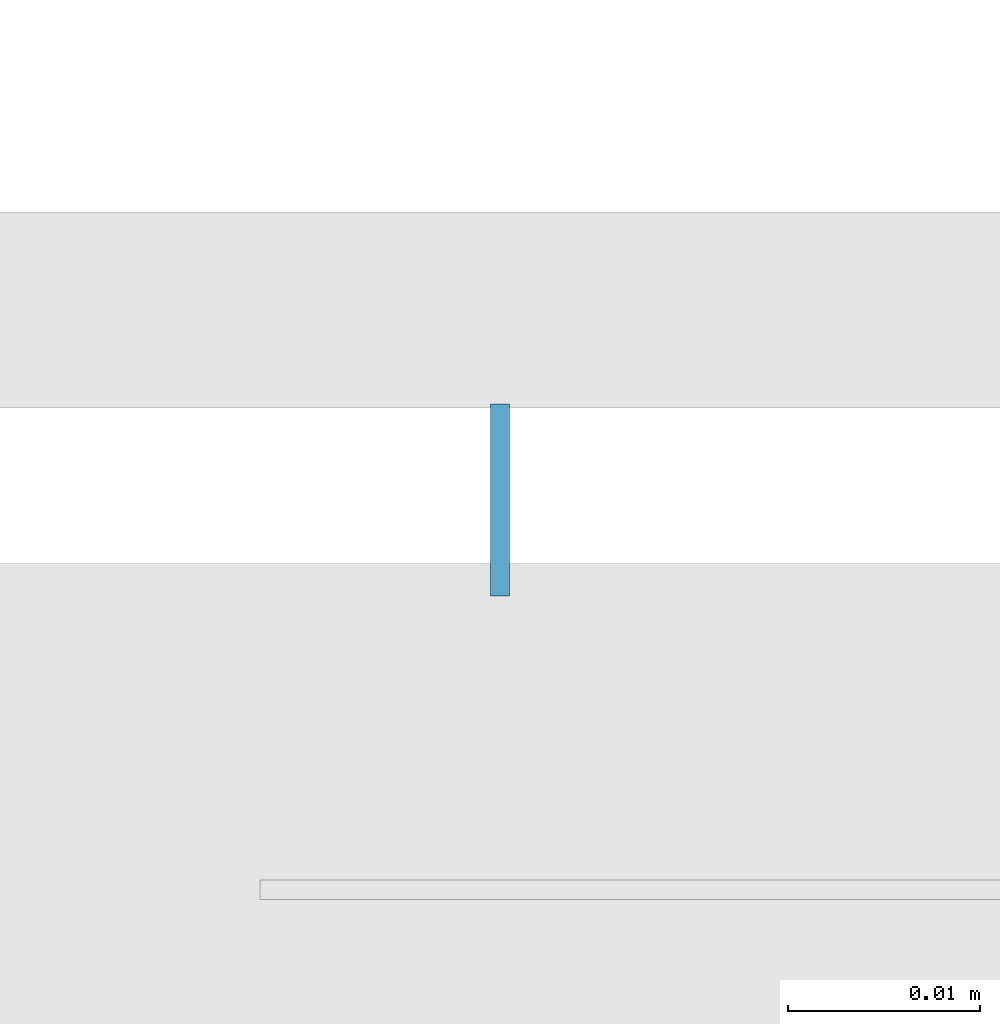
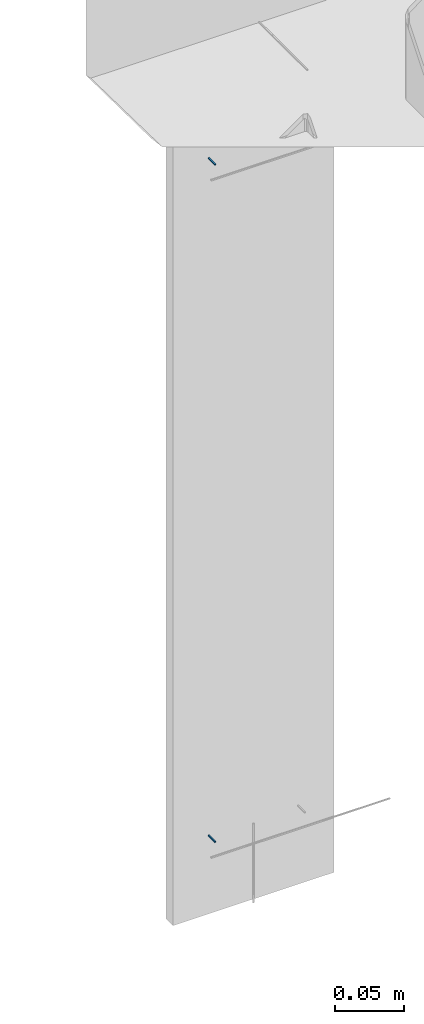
# One storey, part 96 of 186: 2 beams.
"""IFC4X3_ADD2 building model written with IfcOpenShell, lengths in millimetres."""

from ifc_helpers import new_model, si_unit, direction, frame, frame_2d, origin_with_axes, place, context, subcontext, project, spatial, rectangle, extrude, material, element, save


model = new_model("IFC4X3_ADD2")

# Units and contexts
model_context = context("Model", 3, precision=1e-05, world=origin_with_axes(), true_north=direction((0.0, 1.0)))
body_context = subcontext(model_context, "Body", "Model", "MODEL_VIEW")
ifc_project = project(units=[si_unit("LENGTHUNIT", "METRE", prefix="MILLI"), si_unit("AREAUNIT", "SQUARE_METRE"), si_unit("VOLUMEUNIT", "CUBIC_METRE"), si_unit("PLANEANGLEUNIT", "RADIAN"), si_unit("TIMEUNIT", "SECOND"), si_unit("MASSUNIT", "GRAM")], contexts=[model_context])

# Site, building, storey
site_placement = place(None, origin_with_axes())
site = spatial("IfcSite", under=ifc_project, at=site_placement, Name="Site", CompositionType="ELEMENT")
building_placement = place(site_placement, origin_with_axes())
building = spatial("IfcBuilding", under=site, at=building_placement, Name="IFC Building Story")
storey_placement = place(building_placement, frame((0.0, 0.0, 4370.0), z_axis=(0.0, 0.0, 1.0), x_axis=(1.0, 0.0, 0.0)))
storey = spatial("IfcBuildingStorey", under=building, at=storey_placement, Name="ETAGE 10 (1)", Elevation=4370.0)

# Beams
ifc_material = material(Name="STEEL/Accessory_invisible")
for number, where, z_axis, x_axis, name in (
    (1, (10718.1886362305, 17983.2997253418, 3729.45), (1.0, 0.0, 0.0), (0.0, 0.0, 1.0), "MP21"),
    (2, (10718.1886362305, 17983.2997253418, 3129.45), (1.0, 0.0, 0.0), (0.0, 0.0, 1.0), "MP21"),
):
    element("IfcBeam", number, at=place(storey_placement, frame(where, z_axis=z_axis, x_axis=x_axis)), inside=storey, material=ifc_material, Name=name, ObjectType="1*1 9", context=body_context, shape_type="SweptSolid", body=[
        extrude(rectangle(XDim=0.9999999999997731, YDim=10.0, at=frame_2d((0.0, 5.95523630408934e-12), x_axis=(1.0, 0.0))), origin_with_axes(), (0.0, 0.0, 1.0), 1.0),
    ])

save(model, "model.ifc")
